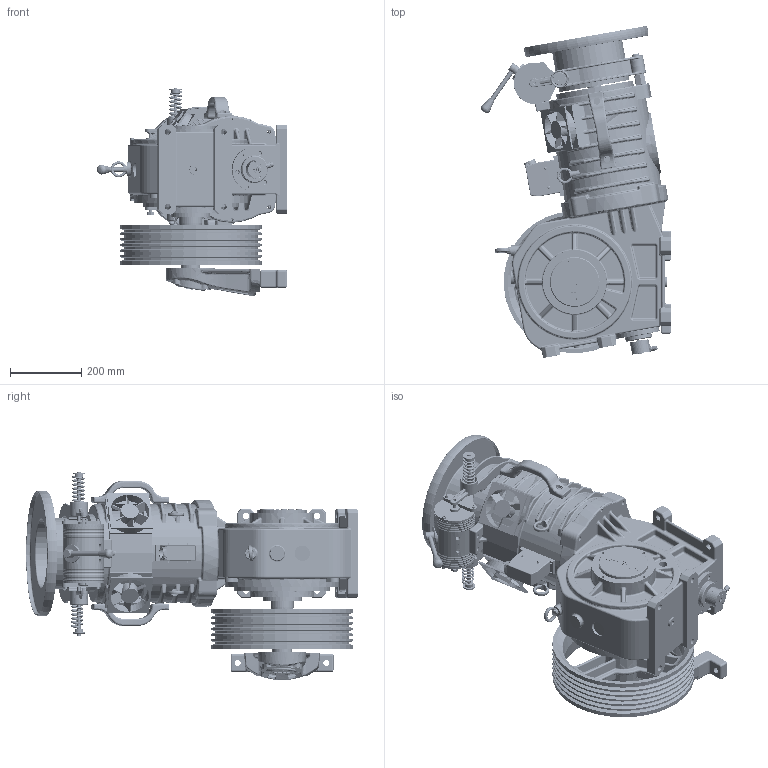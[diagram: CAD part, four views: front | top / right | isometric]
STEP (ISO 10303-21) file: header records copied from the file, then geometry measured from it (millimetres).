
FILE_DESCRIPTION (( 'STEP AP214' ), '1' );
FILE_NAME ('STL7503021.STEP', '2026-01-21T09:29:07', ( '' ), ( '' ), 'SwSTEP 2.0', 'SolidWorks 2023', '' );
FILE_SCHEMA (( 'AUTOMOTIVE_DESIGN' ));
Length unit declared in the file: millimetre
Products named in the file (1): STL7503021
Bounding box: 535.61 x 934.74 x 587.91 mm (x, y, z)
Volume: 56295455.3 mm3; surface area: 3914807.8 mm2
Topology: 38 solids, 63 shells, 6263 faces, 14927 edges, 8781 vertices
Faces by surface type: cylinder 2286, plane 1447, bspline 1134, torus 626, cone 389, sphere 381
Entity records: 248330 total; most frequent: CARTESIAN_POINT 111211, ORIENTED_EDGE 29358, DIRECTION 28225, EDGE_CURVE 14679, AXIS2_PLACEMENT_3D 11665, VERTEX_POINT 8731, EDGE_LOOP 6724, CIRCLE 6535
